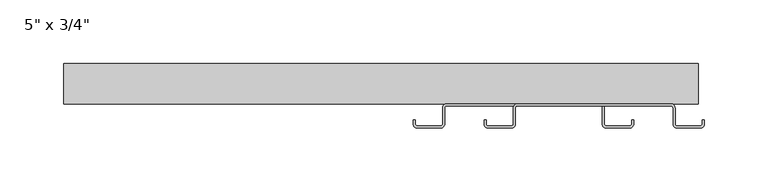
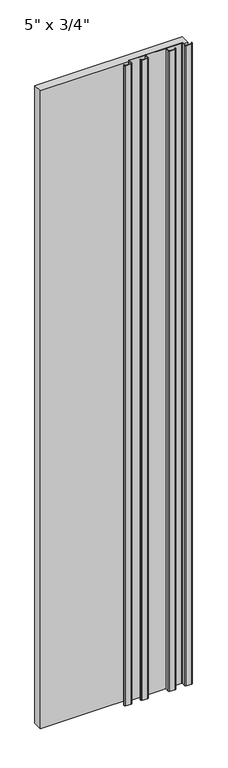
"""IFC4 building model written with IfcOpenShell, lengths in millimetres: plate geometry."""

from ifc_helpers import new_model, si_unit, point, frame, frame_2d, origin, origin_with_axes, place, context, project, spatial, polyline, circle_curve, trimmed, segment, composite_curve, outline, extrude, source, transform, mapped, element, save


def plate_5e6d6613(model_context):
    return source(origin(), model_context, "Body", "SweptSolid", [
        extrude(outline(composite_curve([segment(polyline([(80.9497998, 3.175), (80.9497998, 6.35), (82.5372998, 6.35), (82.5372998, 3.175)]), True, "CONTINUOUS"), segment(trimmed(circle_curve(frame_2d((84.1247998, 3.175)), 1.5875), [point((82.5372998, 3.175))], [point((84.1247998, 1.5875))], True, "CARTESIAN"), True, "CONTINUOUS"), segment(polyline([(84.1247998, 1.5875), (102.3873998, 1.5875)]), True, "CONTINUOUS"), segment(trimmed(circle_curve(frame_2d((102.3873998, 3.175)), 1.5875), [point((102.3873998, 1.5875))], [point((103.9748998, 3.175))], True, "CARTESIAN"), True, "CONTINUOUS"), segment(polyline([(103.9748998, 3.175), (103.9748998, 15.875)]), True, "CONTINUOUS"), segment(trimmed(circle_curve(frame_2d((107.1498998, 15.875)), 3.175), [point((103.9748998, 15.875))], [point((107.1498998, 19.05))], False, "CARTESIAN"), True, "CONTINUOUS"), segment(polyline([(107.1498998, 19.05), (227.7998998, 19.05)]), True, "CONTINUOUS"), segment(trimmed(circle_curve(frame_2d((227.7998998, 15.875)), 3.175), [point((227.7998998, 19.05))], [point((230.9748998, 15.875))], False, "CARTESIAN"), True, "CONTINUOUS"), segment(polyline([(230.9748998, 15.875), (230.9748998, 3.175)]), True, "CONTINUOUS"), segment(trimmed(circle_curve(frame_2d((232.5623998, 3.175)), 1.5875), [point((230.9748998, 3.175))], [point((232.5623998, 1.5875))], True, "CARTESIAN"), True, "CONTINUOUS"), segment(polyline([(232.5623998, 1.5875), (250.8249998, 1.5875)]), True, "CONTINUOUS"), segment(trimmed(circle_curve(frame_2d((250.8249998, 3.175)), 1.5875), [point((250.8249998, 1.5875))], [point((252.4124998, 3.175))], True, "CARTESIAN"), True, "CONTINUOUS"), segment(polyline([(252.4124998, 3.175), (252.4124998, 6.35), (253.9999998, 6.35), (253.9999998, 3.175)]), True, "CONTINUOUS"), segment(trimmed(circle_curve(frame_2d((250.8249998, 3.175)), 3.175), [point((253.9999998, 3.175))], [point((250.8249998, 0.0))], False, "CARTESIAN"), True, "CONTINUOUS"), segment(polyline([(250.8249998, 0.0), (232.5623998, 0.0)]), True, "CONTINUOUS"), segment(trimmed(circle_curve(frame_2d((232.5623998, 3.175)), 3.175), [point((232.5623998, 0.0))], [point((229.3873998, 3.175))], False, "CARTESIAN"), True, "CONTINUOUS"), segment(polyline([(229.3873998, 3.175), (229.3873998, 15.875)]), True, "CONTINUOUS"), segment(trimmed(circle_curve(frame_2d((227.7998998, 15.875)), 1.5875), [point((229.3873998, 15.875))], [point((227.7998998, 17.4625))], True, "CARTESIAN"), True, "CONTINUOUS"), segment(polyline([(227.7998998, 17.4625), (107.1498998, 17.4625)]), True, "CONTINUOUS"), segment(trimmed(circle_curve(frame_2d((107.1498998, 15.875)), 1.5875), [point((107.1498998, 17.4625))], [point((105.5623998, 15.875))], True, "CARTESIAN"), True, "CONTINUOUS"), segment(polyline([(105.5623998, 15.875), (105.5623998, 3.175)]), True, "CONTINUOUS"), segment(trimmed(circle_curve(frame_2d((102.3873998, 3.175)), 3.175), [point((105.5623998, 3.175))], [point((102.3873998, 0.0))], False, "CARTESIAN"), True, "CONTINUOUS"), segment(polyline([(102.3873998, 0.0), (84.1247998, 0.0)]), True, "CONTINUOUS"), segment(trimmed(circle_curve(frame_2d((84.1247998, 3.175)), 3.175), [point((84.1247998, 0.0))], [point((80.9497998, 3.175))], False, "CARTESIAN"), True, "CONTINUOUS")], self_intersect=False)), origin_with_axes(), (0.0, 0.0, 1.0), 2286.0),
        extrude(outline(composite_curve([segment(polyline([(25.4000002, 3.175), (25.4000002, 6.35), (26.9875002, 6.35), (26.9875002, 3.175)]), True, "CONTINUOUS"), segment(trimmed(circle_curve(frame_2d((28.5750002, 3.175)), 1.5875), [point((26.9875002, 3.175))], [point((28.5750002, 1.5875))], True, "CARTESIAN"), True, "CONTINUOUS"), segment(polyline([(28.5750002, 1.5875), (46.8376002, 1.5875)]), True, "CONTINUOUS"), segment(trimmed(circle_curve(frame_2d((46.8376002, 3.175)), 1.5875), [point((46.8376002, 1.5875))], [point((48.4251002, 3.175))], True, "CARTESIAN"), True, "CONTINUOUS"), segment(polyline([(48.4251002, 3.175), (48.4251002, 15.875)]), True, "CONTINUOUS"), segment(trimmed(circle_curve(frame_2d((51.6001002, 15.875)), 3.175), [point((48.4251002, 15.875))], [point((51.6001002, 19.05))], False, "CARTESIAN"), True, "CONTINUOUS"), segment(polyline([(51.6001002, 19.05), (172.2501002, 19.05)]), True, "CONTINUOUS"), segment(trimmed(circle_curve(frame_2d((172.2501002, 15.875)), 3.175), [point((172.2501002, 19.05))], [point((175.4251002, 15.875))], False, "CARTESIAN"), True, "CONTINUOUS"), segment(polyline([(175.4251002, 15.875), (175.4251002, 3.175)]), True, "CONTINUOUS"), segment(trimmed(circle_curve(frame_2d((177.0126002, 3.175)), 1.5875), [point((175.4251002, 3.175))], [point((177.0126002, 1.5875))], True, "CARTESIAN"), True, "CONTINUOUS"), segment(polyline([(177.0126002, 1.5875), (195.2752002, 1.5875)]), True, "CONTINUOUS"), segment(trimmed(circle_curve(frame_2d((195.2752002, 3.175)), 1.5875), [point((195.2752002, 1.5875))], [point((196.8627002, 3.175))], True, "CARTESIAN"), True, "CONTINUOUS"), segment(polyline([(196.8627002, 3.175), (196.8627002, 6.35), (198.4502002, 6.35), (198.4502002, 3.175)]), True, "CONTINUOUS"), segment(trimmed(circle_curve(frame_2d((195.2752002, 3.175)), 3.175), [point((198.4502002, 3.175))], [point((195.2752002, 0.0))], False, "CARTESIAN"), True, "CONTINUOUS"), segment(polyline([(195.2752002, 0.0), (177.0126002, 0.0)]), True, "CONTINUOUS"), segment(trimmed(circle_curve(frame_2d((177.0126002, 3.175)), 3.175), [point((177.0126002, 0.0))], [point((173.8376002, 3.175))], False, "CARTESIAN"), True, "CONTINUOUS"), segment(polyline([(173.8376002, 3.175), (173.8376002, 15.875)]), True, "CONTINUOUS"), segment(trimmed(circle_curve(frame_2d((172.2501002, 15.875)), 1.5875), [point((173.8376002, 15.875))], [point((172.2501002, 17.4625))], True, "CARTESIAN"), True, "CONTINUOUS"), segment(polyline([(172.2501002, 17.4625), (51.6001002, 17.4625)]), True, "CONTINUOUS"), segment(trimmed(circle_curve(frame_2d((51.6001002, 15.875)), 1.5875), [point((51.6001002, 17.4625))], [point((50.0126002, 15.875))], True, "CARTESIAN"), True, "CONTINUOUS"), segment(polyline([(50.0126002, 15.875), (50.0126002, 3.175)]), True, "CONTINUOUS"), segment(trimmed(circle_curve(frame_2d((46.8376002, 3.175)), 3.175), [point((50.0126002, 3.175))], [point((46.8376002, 0.0))], False, "CARTESIAN"), True, "CONTINUOUS"), segment(polyline([(46.8376002, 0.0), (28.5750002, 0.0)]), True, "CONTINUOUS"), segment(trimmed(circle_curve(frame_2d((28.5750002, 3.175)), 3.175), [point((28.5750002, 0.0))], [point((25.4000002, 3.175))], False, "CARTESIAN"), True, "CONTINUOUS")], self_intersect=False)), origin_with_axes(), (0.0, 0.0, 1.0), 2286.0),
        extrude(outline(polyline([(249.2374998, 19.05), (-249.2374998, 19.05), (-249.2374998, 50.8), (249.2374998, 50.8), (249.2374998, 19.05)])), frame((0.0, 0.0, 4.7625), z_axis=(0.0, 0.0, 1.0), x_axis=(1.0, 0.0, 0.0)), (0.0, 0.0, 1.0), 2276.475),
    ])


if __name__ == "__main__":
    model = new_model("IFC4")
    model_context = context("Model", 3, world=origin())
    ifc_project = project(units=[si_unit("LENGTHUNIT", "METRE", prefix="MILLI")], contexts=[model_context])
    site = spatial("IfcSite", under=ifc_project)
    building = spatial("IfcBuilding", under=site)
    placement = place(None, origin())
    plate_shape = plate_5e6d6613(model_context)
    element("IfcPlate", 1, ObjectType="KWS_Generic-Panel_w_PanelRail-V : 5\" x 3/4\"", at=placement, inside=building, context=model_context, shape_type="MappedRepresentation", body=[
        mapped(plate_shape, transform((0.0, 0.0, 0.0), x_axis=(1.0, 0.0, 0.0), y_axis=(0.0, 1.0, 0.0), z_axis=(0.0, 0.0, 1.0))),
    ])
    save(model, "model.ifc")
